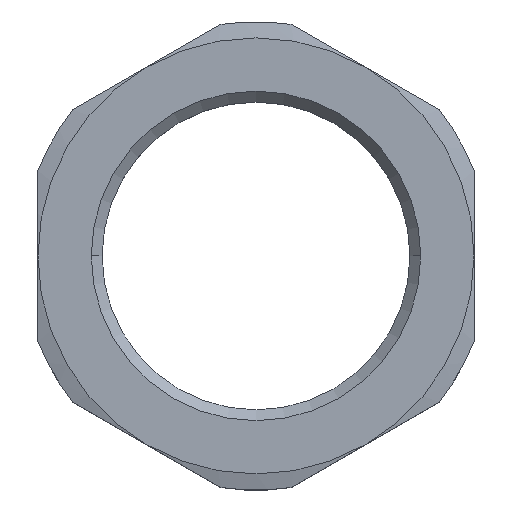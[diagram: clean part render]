
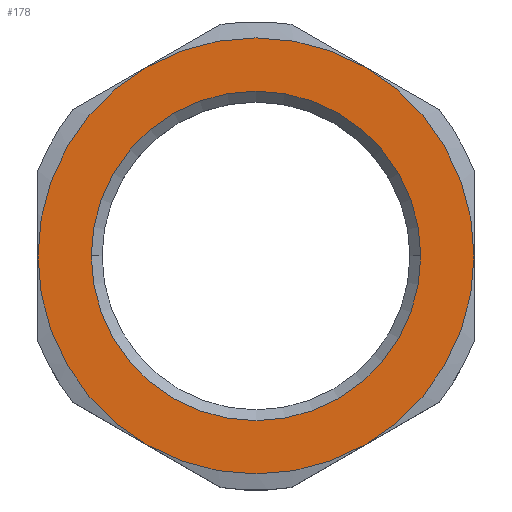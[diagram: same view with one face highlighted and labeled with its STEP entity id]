
A CAD part, top view. The second image highlights one B-rep face of the part: STEP entity #178.
In plain terms, the highlighted planar face has unit normal (0, 0, 1).
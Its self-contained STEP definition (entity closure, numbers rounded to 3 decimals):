
#64 = EDGE_CURVE ( 'NONE', #92, #65, #995, .T. ) ;
#65 = VERTEX_POINT ( 'NONE', #990 ) ;
#81 = VERTEX_POINT ( 'NONE', #960 ) ;
#92 = VERTEX_POINT ( 'NONE', #932 ) ;
#151 = EDGE_LOOP ( 'NONE', ( #179, #153, #156, #159, #166, #168 ) ) ;
#153 = ORIENTED_EDGE ( 'NONE', *, *, #154, .T. ) ;
#154 = EDGE_CURVE ( 'NONE', #181, #155, #1069, .T. ) ;
#155 = VERTEX_POINT ( 'NONE', #1098 ) ;
#156 = ORIENTED_EDGE ( 'NONE', *, *, #157, .T. ) ;
#157 = EDGE_CURVE ( 'NONE', #155, #158, #1067, .T. ) ;
#158 = VERTEX_POINT ( 'NONE', #1063 ) ;
#159 = ORIENTED_EDGE ( 'NONE', *, *, #160, .T. ) ;
#160 = EDGE_CURVE ( 'NONE', #158, #161, #1150, .T. ) ;
#161 = VERTEX_POINT ( 'NONE', #1151 ) ;
#162 = VERTEX_POINT ( 'NONE', #1145 ) ;
#166 = ORIENTED_EDGE ( 'NONE', *, *, #167, .T. ) ;
#167 = EDGE_CURVE ( 'NONE', #161, #162, #1229, .T. ) ;
#168 = ORIENTED_EDGE ( 'NONE', *, *, #190, .T. ) ;
#178 = ADVANCED_FACE ( 'NONE', ( #1212, #1211 ), #1210, .F. ) ;
#179 = ORIENTED_EDGE ( 'NONE', *, *, #180, .T. ) ;
#180 = EDGE_CURVE ( 'NONE', #81, #181, #1204, .T. ) ;
#181 = VERTEX_POINT ( 'NONE', #1200 ) ;
#190 = EDGE_CURVE ( 'NONE', #162, #81, #1189, .T. ) ;
#191 = EDGE_LOOP ( 'NONE', ( #192, #194 ) ) ;
#192 = ORIENTED_EDGE ( 'NONE', *, *, #193, .F. ) ;
#193 = EDGE_CURVE ( 'NONE', #65, #92, #1184, .T. ) ;
#194 = ORIENTED_EDGE ( 'NONE', *, *, #64, .F. ) ;
#932 = CARTESIAN_POINT ( 'NONE',  ( -10.2, 0., 0. ) ) ;
#960 = CARTESIAN_POINT ( 'NONE',  ( 13.5, 0., 0. ) ) ;
#990 = CARTESIAN_POINT ( 'NONE',  ( 10.2, 0., 0. ) ) ;
#991 = DIRECTION ( 'NONE',  ( 1., 0., 0. ) ) ;
#992 = DIRECTION ( 'NONE',  ( 0., 0., 1. ) ) ;
#993 = CARTESIAN_POINT ( 'NONE',  ( 0., 0., 0. ) ) ;
#994 = AXIS2_PLACEMENT_3D ( 'NONE', #993, #992, #991 ) ;
#995 = CIRCLE ( 'NONE', #994, 10.2 ) ;
#1063 = CARTESIAN_POINT ( 'NONE',  ( -13.5, 0., 0. ) ) ;
#1064 = DIRECTION ( 'NONE',  ( 1., 0., 0. ) ) ;
#1065 = DIRECTION ( 'NONE',  ( 0., 0., 1. ) ) ;
#1066 = AXIS2_PLACEMENT_3D ( 'NONE', #1097, #1065, #1064 ) ;
#1067 = CIRCLE ( 'NONE', #1066, 13.5 ) ;
#1069 = CIRCLE ( 'NONE', #1102, 13.5 ) ;
#1097 = CARTESIAN_POINT ( 'NONE',  ( 0., 0., 0. ) ) ;
#1098 = CARTESIAN_POINT ( 'NONE',  ( -6.75, 11.691, 0. ) ) ;
#1099 = DIRECTION ( 'NONE',  ( 1., 0., 0. ) ) ;
#1100 = DIRECTION ( 'NONE',  ( 0., 0., 1. ) ) ;
#1101 = CARTESIAN_POINT ( 'NONE',  ( 0., 0., 0. ) ) ;
#1102 = AXIS2_PLACEMENT_3D ( 'NONE', #1101, #1100, #1099 ) ;
#1145 = CARTESIAN_POINT ( 'NONE',  ( 6.75, -11.691, 0. ) ) ;
#1146 = DIRECTION ( 'NONE',  ( 1., 0., 0. ) ) ;
#1147 = DIRECTION ( 'NONE',  ( 0., 0., 1. ) ) ;
#1148 = CARTESIAN_POINT ( 'NONE',  ( 0., 0., 0. ) ) ;
#1149 = AXIS2_PLACEMENT_3D ( 'NONE', #1148, #1147, #1146 ) ;
#1150 = CIRCLE ( 'NONE', #1149, 13.5 ) ;
#1151 = CARTESIAN_POINT ( 'NONE',  ( -6.75, -11.691, 0. ) ) ;
#1180 = DIRECTION ( 'NONE',  ( 1., 0., 0. ) ) ;
#1181 = DIRECTION ( 'NONE',  ( 0., 0., 1. ) ) ;
#1182 = CARTESIAN_POINT ( 'NONE',  ( 0., 0., 0. ) ) ;
#1183 = AXIS2_PLACEMENT_3D ( 'NONE', #1182, #1181, #1180 ) ;
#1184 = CIRCLE ( 'NONE', #1183, 10.2 ) ;
#1185 = DIRECTION ( 'NONE',  ( 1., 0., 0. ) ) ;
#1186 = DIRECTION ( 'NONE',  ( 0., 0., 1. ) ) ;
#1187 = CARTESIAN_POINT ( 'NONE',  ( 0., 0., 0. ) ) ;
#1188 = AXIS2_PLACEMENT_3D ( 'NONE', #1187, #1186, #1185 ) ;
#1189 = CIRCLE ( 'NONE', #1188, 13.5 ) ;
#1200 = CARTESIAN_POINT ( 'NONE',  ( 6.75, 11.691, 0. ) ) ;
#1201 = DIRECTION ( 'NONE',  ( 1., 0., 0. ) ) ;
#1202 = DIRECTION ( 'NONE',  ( 0., 0., 1. ) ) ;
#1203 = AXIS2_PLACEMENT_3D ( 'NONE', #1209, #1202, #1201 ) ;
#1204 = CIRCLE ( 'NONE', #1203, 13.5 ) ;
#1205 = DIRECTION ( 'NONE',  ( -1., 0., 0. ) ) ;
#1206 = DIRECTION ( 'NONE',  ( 0., 0., -1. ) ) ;
#1207 = CARTESIAN_POINT ( 'NONE',  ( 0., 0., 0. ) ) ;
#1208 = AXIS2_PLACEMENT_3D ( 'NONE', #1207, #1206, #1205 ) ;
#1209 = CARTESIAN_POINT ( 'NONE',  ( 0., 0., 0. ) ) ;
#1210 = PLANE ( 'NONE',  #1208 ) ;
#1211 = FACE_BOUND ( 'NONE', #191, .T. ) ;
#1212 = FACE_OUTER_BOUND ( 'NONE', #151, .T. ) ;
#1225 = DIRECTION ( 'NONE',  ( 1., 0., 0. ) ) ;
#1226 = DIRECTION ( 'NONE',  ( 0., 0., 1. ) ) ;
#1227 = CARTESIAN_POINT ( 'NONE',  ( 0., 0., 0. ) ) ;
#1228 = AXIS2_PLACEMENT_3D ( 'NONE', #1227, #1226, #1225 ) ;
#1229 = CIRCLE ( 'NONE', #1228, 13.5 ) ;
